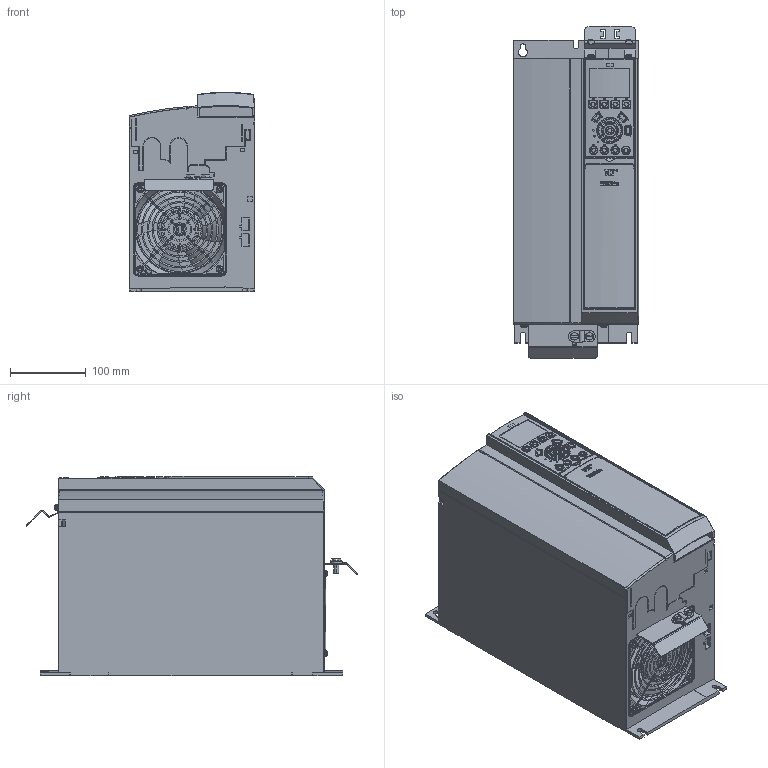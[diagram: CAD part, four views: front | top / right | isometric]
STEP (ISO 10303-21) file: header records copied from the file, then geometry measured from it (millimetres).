
FILE_DESCRIPTION((''),'2;1');
FILE_NAME('DANFOSS-FC100-B3-IP20-A-097','2007-06-14T',('janardhan.mankala'),('dan Drives A/S'),'PRO/ENGINEER BY PARAMETRIC TECHNOLOGY CORPORATION, 2006200','PRO/ENGINEER BY PARAMETRIC TECHNOLOGY CORPORATION, 2006200','');
FILE_SCHEMA(('CONFIG_CONTROL_DESIGN', 'GEOMETRIC_VALIDATION_PROPERTIES_MIM'));
Products named in the file (1): DANFOSS-FC100-B3-IP20-A-097
Bounding box: 165 x 437.49 x 262.51 mm (x, y, z)
Volume: 14050501.3 mm3; surface area: 538752.7 mm2
Topology: 2 solids, 19 shells, 3261 faces, 8023 edges, 4903 vertices
Faces by surface type: cylinder 1066, plane 1066, bspline 511, torus 303, sphere 136, cone 91, extrusion 88
Entity records: 176744 total; most frequent: CARTESIAN_POINT 57193, ORIENTED_EDGE 16034, DIRECTION 13394, PRESENTATION_STYLE_ASSIGNMENT 10371, STYLED_ITEM 8077, CURVE_STYLE 8017, EDGE_CURVE 8017, VERTEX_POINT 4903
